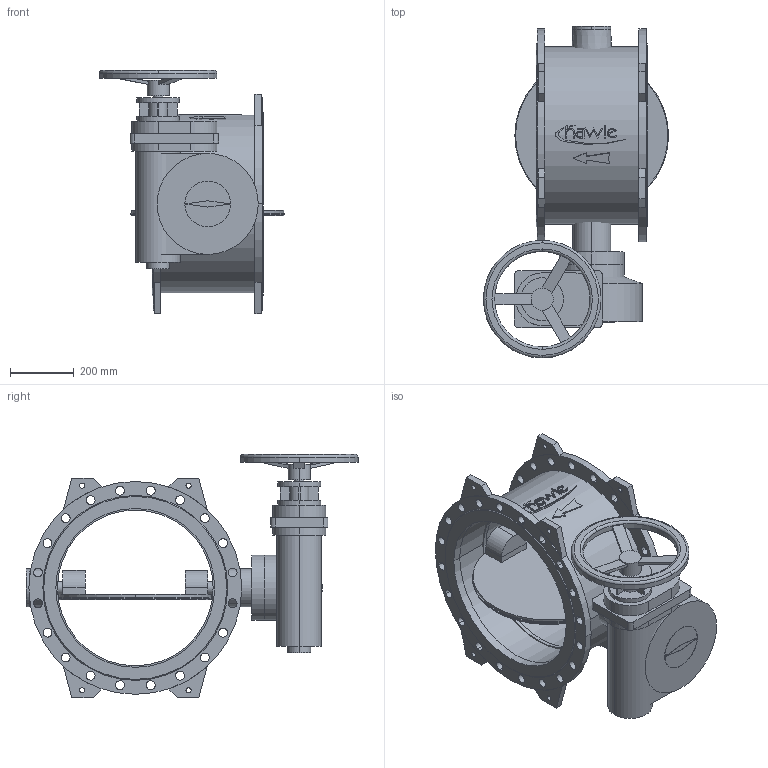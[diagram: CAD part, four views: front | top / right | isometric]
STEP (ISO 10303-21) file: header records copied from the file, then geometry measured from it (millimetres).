
FILE_DESCRIPTION(('STEP AP214'),'1');
FILE_NAME('S:/EK/USER/CAT6/3DHomepage_27-04-2012/neu_08-01-2013/9881K/9881K_PN10_DN500_7800.STP','2013-03-11T14:10:41',(' '),(' '),'Spatial InterOp 3D',' ',' ');
FILE_SCHEMA(('automotive_design'));
Length unit declared in the file: millimetre
Products named in the file (52): 3D-Objekt
Bounding box: 583 x 1045 x 765 mm (x, y, z)
Volume: 59140824.8 mm3; surface area: 4491296.1 mm2
Topology: 52 solids, 52 shells, 455 faces, 1046 edges, 698 vertices
Faces by surface type: plane 228, cylinder 215, cone 8, torus 4
Entity records: 18118 total; most frequent: DIRECTION 2536, CARTESIAN_POINT 2251, ORIENTED_EDGE 2092, EDGE_CURVE 1046, AXIS2_PLACEMENT_3D 983, VERTEX_POINT 698, EDGE_LOOP 572, LINE 570
